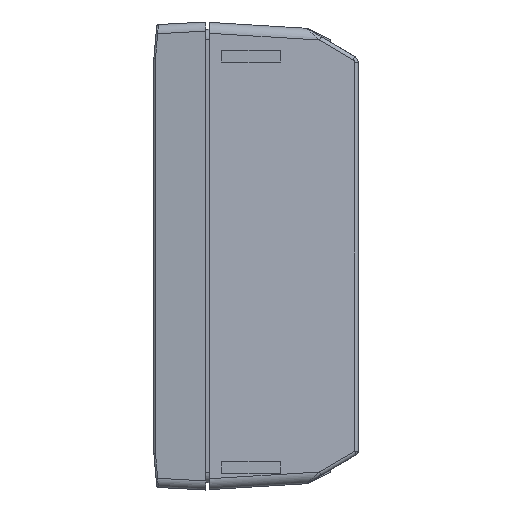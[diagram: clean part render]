
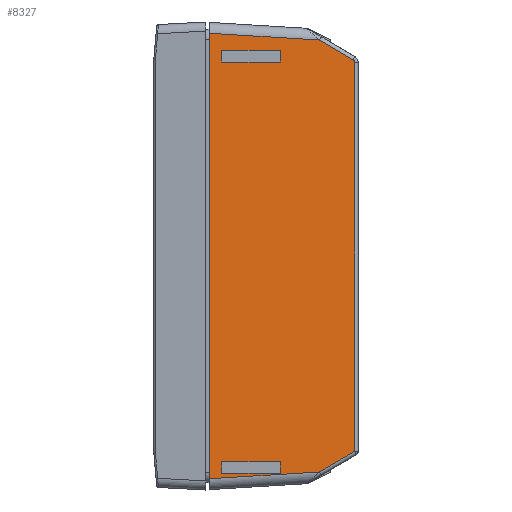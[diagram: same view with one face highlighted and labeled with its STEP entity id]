
A CAD part, left-side view. The second image highlights one B-rep face of the part: STEP entity #8327.
In plain terms, the highlighted planar face has unit normal (-0.998, -0.061, 0).
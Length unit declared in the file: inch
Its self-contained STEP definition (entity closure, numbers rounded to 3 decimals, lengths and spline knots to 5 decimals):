
#755 = CARTESIAN_POINT ( 'NONE',  ( 0.05029, 0.44182, -1.84439 ) ) ;
#1178 = CARTESIAN_POINT ( 'NONE',  ( 0.07457, 0.04482, 1.67035 ) ) ;
#1562 = VERTEX_POINT ( 'NONE', #24150 ) ;
#1689 = PLANE ( 'NONE',  #18281 ) ;
#2519 = VECTOR ( 'NONE', #9827, 39.37008 ) ;
#2591 = ORIENTED_EDGE ( 'NONE', *, *, #32432, .F. ) ;
#3118 = VECTOR ( 'NONE', #44185, 39.37008 ) ;
#3558 = CARTESIAN_POINT ( 'NONE',  ( 0.0063, 1.161, 1.9875 ) ) ;
#3950 = ORIENTED_EDGE ( 'NONE', *, *, #12162, .T. ) ;
#5145 = EDGE_CURVE ( 'NONE', #60277, #67943, #26006, .T. ) ;
#5411 = FACE_BOUND ( 'NONE', #37491, .T. ) ;
#6225 = LINE ( 'NONE', #37375, #30711 ) ;
#6249 = EDGE_CURVE ( 'NONE', #50390, #60277, #50265, .T. ) ;
#6400 = VECTOR ( 'NONE', #49503, 39.37008 ) ;
#6783 = CARTESIAN_POINT ( 'NONE',  ( 0.07547, 0.03005, -1.66165 ) ) ;
#6822 = LINE ( 'NONE', #48347, #18640 ) ;
#6951 = DIRECTION ( 'NONE',  ( 0., 0., -1. ) ) ;
#7484 = CARTESIAN_POINT ( 'NONE',  ( 0.03688, 0.661, -1.75 ) ) ;
#8327 = ADVANCED_FACE ( 'NONE', ( #5411, #61935, #56002 ), #1689, .T. ) ;
#8652 = ORIENTED_EDGE ( 'NONE', *, *, #5145, .F. ) ;
#9027 = ORIENTED_EDGE ( 'NONE', *, *, #9299, .T. ) ;
#9040 = ORIENTED_EDGE ( 'NONE', *, *, #50388, .T. ) ;
#9299 = EDGE_CURVE ( 'NONE', #1562, #64350, #21348, .T. ) ;
#9827 = DIRECTION ( 'NONE',  ( 0.061, -0.998, 0. ) ) ;
#10068 = VERTEX_POINT ( 'NONE', #36804 ) ;
#10117 = CARTESIAN_POINT ( 'NONE',  ( 0.03688, 0.661, 1.9875 ) ) ;
#11738 = CARTESIAN_POINT ( 'NONE',  ( 0.07547, 0.03005, 1.6445 ) ) ;
#12162 = EDGE_CURVE ( 'NONE', #34055, #37353, #6822, .T. ) ;
#12428 = VECTOR ( 'NONE', #55845, 39.37008 ) ;
#12487 = CARTESIAN_POINT ( 'NONE',  ( -0.00034, 1.26964, 1.89502 ) ) ;
#13998 = VECTOR ( 'NONE', #19680, 39.37008 ) ;
#14380 = ORIENTED_EDGE ( 'NONE', *, *, #63777, .F. ) ;
#14957 = LINE ( 'NONE', #12487, #12428 ) ;
#16298 = DIRECTION ( 'NONE',  ( 0., 0., 1. ) ) ;
#16524 = VECTOR ( 'NONE', #60557, 39.37008 ) ;
#18281 = AXIS2_PLACEMENT_3D ( 'NONE', #44431, #34258, #33795 ) ;
#18640 = VECTOR ( 'NONE', #16298, 39.37008 ) ;
#19680 = DIRECTION ( 'NONE',  ( 0., 0., 1. ) ) ;
#19833 = LINE ( 'NONE', #42353, #59470 ) ;
#21348 = LINE ( 'NONE', #45407, #62697 ) ;
#21751 = EDGE_CURVE ( 'NONE', #53096, #40805, #19833, .T. ) ;
#23017 = CARTESIAN_POINT ( 'NONE',  ( 0.0063, 1.161, 1.65 ) ) ;
#24135 = LINE ( 'NONE', #63543, #13998 ) ;
#24150 = CARTESIAN_POINT ( 'NONE',  ( 0., 1.264, 1.89467 ) ) ;
#24969 = VECTOR ( 'NONE', #58447, 39.37008 ) ;
#25004 = CARTESIAN_POINT ( 'NONE',  ( 0.0063, 1.161, 1.75 ) ) ;
#25211 = CARTESIAN_POINT ( 'NONE',  ( 0.05722, 0.32851, 1.83746 ) ) ;
#25456 = VERTEX_POINT ( 'NONE', #38200 ) ;
#26006 = LINE ( 'NONE', #26732, #57162 ) ;
#26301 = LINE ( 'NONE', #46820, #52404 ) ;
#26732 = CARTESIAN_POINT ( 'NONE',  ( 0., 1.264, -1.75 ) ) ;
#27404 = DIRECTION ( 'NONE',  ( -0.061, 0.998, 0. ) ) ;
#27857 = CARTESIAN_POINT ( 'NONE',  ( 0., 1.264, -1.89467 ) ) ;
#30325 = EDGE_CURVE ( 'NONE', #64350, #36872, #45378, .T. ) ;
#30711 = VECTOR ( 'NONE', #31451, 39.37008 ) ;
#30876 = EDGE_CURVE ( 'NONE', #38517, #1562, #14957, .T. ) ;
#31451 = DIRECTION ( 'NONE',  ( -0.053, 0.86, 0.507 ) ) ;
#31494 = CARTESIAN_POINT ( 'NONE',  ( 0., 1.264, -1.85 ) ) ;
#31869 = EDGE_CURVE ( 'NONE', #25456, #53465, #24135, .T. ) ;
#32177 = LINE ( 'NONE', #3558, #37277 ) ;
#32432 = EDGE_CURVE ( 'NONE', #40805, #25456, #60330, .T. ) ;
#33795 = DIRECTION ( 'NONE',  ( 0.061, -0.998, 0. ) ) ;
#34055 = VERTEX_POINT ( 'NONE', #6783 ) ;
#34258 = DIRECTION ( 'NONE',  ( -0.998, -0.061, 0. ) ) ;
#34591 = CARTESIAN_POINT ( 'NONE',  ( 0.03688, 0.661, 1.75 ) ) ;
#34931 = EDGE_LOOP ( 'NONE', ( #67843, #48185, #55093, #2591 ) ) ;
#35264 = CARTESIAN_POINT ( 'NONE',  ( 0.05722, 0.32851, -1.83746 ) ) ;
#35567 = ORIENTED_EDGE ( 'NONE', *, *, #6249, .F. ) ;
#36804 = CARTESIAN_POINT ( 'NONE',  ( 0.0063, 1.161, -1.85 ) ) ;
#36841 = EDGE_CURVE ( 'NONE', #36872, #34055, #26301, .T. ) ;
#36872 = VERTEX_POINT ( 'NONE', #35264 ) ;
#37277 = VECTOR ( 'NONE', #41092, 39.37008 ) ;
#37353 = VERTEX_POINT ( 'NONE', #11738 ) ;
#37375 = CARTESIAN_POINT ( 'NONE',  ( 0.06043, 0.27603, 1.80654 ) ) ;
#37491 = EDGE_LOOP ( 'NONE', ( #66503, #8652, #35567, #40355 ) ) ;
#38200 = CARTESIAN_POINT ( 'NONE',  ( 0.03688, 0.661, 1.65 ) ) ;
#38517 = VERTEX_POINT ( 'NONE', #25211 ) ;
#40355 = ORIENTED_EDGE ( 'NONE', *, *, #62746, .F. ) ;
#40788 = CARTESIAN_POINT ( 'NONE',  ( 0., 1.264, 1.75 ) ) ;
#40805 = VERTEX_POINT ( 'NONE', #23017 ) ;
#41092 = DIRECTION ( 'NONE',  ( 0., 0., -1. ) ) ;
#42353 = CARTESIAN_POINT ( 'NONE',  ( 0.0063, 1.161, 1.9875 ) ) ;
#44185 = DIRECTION ( 'NONE',  ( 0.061, -0.996, 0.061 ) ) ;
#44431 = CARTESIAN_POINT ( 'NONE',  ( 0., 1.264, 1.9875 ) ) ;
#45378 = LINE ( 'NONE', #755, #3118 ) ;
#45407 = CARTESIAN_POINT ( 'NONE',  ( 0., 1.264, 1.9875 ) ) ;
#45598 = LINE ( 'NONE', #31494, #2519 ) ;
#46516 = EDGE_LOOP ( 'NONE', ( #14380, #9040, #61507, #9027, #61434, #63831, #3950 ) ) ;
#46820 = CARTESIAN_POINT ( 'NONE',  ( 0.07635, 0.01569, -1.65319 ) ) ;
#46855 = CARTESIAN_POINT ( 'NONE',  ( 0.07547, 0.03005, 1.65538 ) ) ;
#47086 = CARTESIAN_POINT ( 'NONE',  ( 0.07547, 0.03005, 1.6445 ) ) ;
#48185 = ORIENTED_EDGE ( 'NONE', *, *, #66710, .F. ) ;
#48347 = CARTESIAN_POINT ( 'NONE',  ( 0.07547, 0.03005, 1.9875 ) ) ;
#49503 = DIRECTION ( 'NONE',  ( -0.061, 0.998, 0. ) ) ;
#50265 = LINE ( 'NONE', #10117, #24969 ) ;
#50388 = EDGE_CURVE ( 'NONE', #52931, #38517, #6225, .T. ) ;
#50390 = VERTEX_POINT ( 'NONE', #52922 ) ;
#52404 = VECTOR ( 'NONE', #68073, 39.37008 ) ;
#52922 = CARTESIAN_POINT ( 'NONE',  ( 0.03688, 0.661, -1.85 ) ) ;
#52931 = VERTEX_POINT ( 'NONE', #1178 ) ;
#53096 = VERTEX_POINT ( 'NONE', #25004 ) ;
#53465 = VERTEX_POINT ( 'NONE', #34591 ) ;
#54651 = CARTESIAN_POINT ( 'NONE',  ( 0., 1.264, 1.65 ) ) ;
#55093 = ORIENTED_EDGE ( 'NONE', *, *, #31869, .F. ) ;
#55845 = DIRECTION ( 'NONE',  ( -0.061, 0.996, 0.061 ) ) ;
#56002 = FACE_BOUND ( 'NONE', #34931, .T. ) ;
#57090 =( BOUNDED_CURVE ( )  B_SPLINE_CURVE ( 3, ( #58388, #68824, #46855, #47086 ),
 .UNSPECIFIED., .F., .F. ) 
 B_SPLINE_CURVE_WITH_KNOTS ( ( 4, 4 ),
 ( 5.24471, 6.28319 ),
 .UNSPECIFIED. ) 
 CURVE ( )  GEOMETRIC_REPRESENTATION_ITEM ( )  RATIONAL_B_SPLINE_CURVE ( ( 1., 0.912, 0.912, 1. ) ) 
 REPRESENTATION_ITEM ( '' )  );
#57162 = VECTOR ( 'NONE', #27404, 39.37008 ) ;
#58388 = CARTESIAN_POINT ( 'NONE',  ( 0.07457, 0.04482, 1.67035 ) ) ;
#58447 = DIRECTION ( 'NONE',  ( 0., 0., 1. ) ) ;
#59470 = VECTOR ( 'NONE', #68549, 39.37008 ) ;
#59602 = LINE ( 'NONE', #40788, #6400 ) ;
#59947 = EDGE_CURVE ( 'NONE', #67943, #10068, #32177, .T. ) ;
#60277 = VERTEX_POINT ( 'NONE', #7484 ) ;
#60330 = LINE ( 'NONE', #54651, #16524 ) ;
#60557 = DIRECTION ( 'NONE',  ( 0.061, -0.998, 0. ) ) ;
#61434 = ORIENTED_EDGE ( 'NONE', *, *, #30325, .T. ) ;
#61507 = ORIENTED_EDGE ( 'NONE', *, *, #30876, .T. ) ;
#61935 = FACE_OUTER_BOUND ( 'NONE', #46516, .T. ) ;
#62697 = VECTOR ( 'NONE', #6951, 39.37008 ) ;
#62746 = EDGE_CURVE ( 'NONE', #10068, #50390, #45598, .T. ) ;
#63543 = CARTESIAN_POINT ( 'NONE',  ( 0.03688, 0.661, 1.9875 ) ) ;
#63777 = EDGE_CURVE ( 'NONE', #52931, #37353, #57090, .T. ) ;
#63831 = ORIENTED_EDGE ( 'NONE', *, *, #36841, .T. ) ;
#64350 = VERTEX_POINT ( 'NONE', #27857 ) ;
#66503 = ORIENTED_EDGE ( 'NONE', *, *, #59947, .F. ) ;
#66710 = EDGE_CURVE ( 'NONE', #53465, #53096, #59602, .T. ) ;
#67843 = ORIENTED_EDGE ( 'NONE', *, *, #21751, .F. ) ;
#67943 = VERTEX_POINT ( 'NONE', #68918 ) ;
#68073 = DIRECTION ( 'NONE',  ( 0.053, -0.86, 0.507 ) ) ;
#68549 = DIRECTION ( 'NONE',  ( 0., 0., -1. ) ) ;
#68824 = CARTESIAN_POINT ( 'NONE',  ( 0.07514, 0.03545, 1.66483 ) ) ;
#68918 = CARTESIAN_POINT ( 'NONE',  ( 0.0063, 1.161, -1.75 ) ) ;
